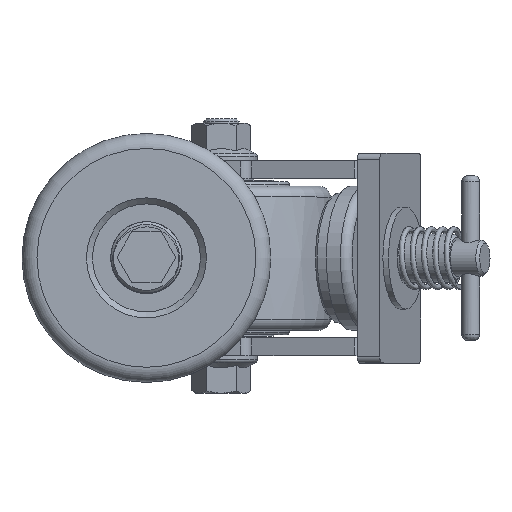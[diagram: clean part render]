
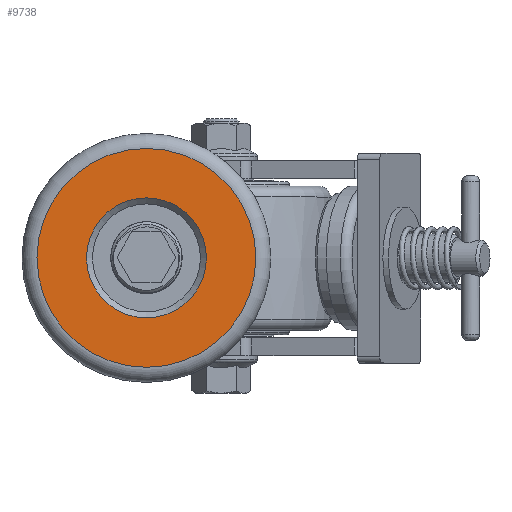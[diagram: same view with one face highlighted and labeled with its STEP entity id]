
A CAD part, top view. The second image highlights one B-rep face of the part: STEP entity #9738.
In plain terms, the highlighted planar face has unit normal (0, 0, 1).
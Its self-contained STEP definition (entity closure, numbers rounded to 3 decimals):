
#178=FACE_BOUND('',#1788,.T.);
#628=PLANE('',#10381);
#1172=FACE_OUTER_BOUND('',#1787,.T.);
#1787=EDGE_LOOP('',(#9061));
#1788=EDGE_LOOP('',(#9062));
#1986=CIRCLE('',#10379,36.5);
#1988=CIRCLE('',#10382,20.);
#4881=VERTEX_POINT('',#31352);
#4882=VERTEX_POINT('',#31356);
#6278=EDGE_CURVE('',#4881,#4881,#1986,.T.);
#6280=EDGE_CURVE('',#4882,#4882,#1988,.T.);
#9061=ORIENTED_EDGE('',*,*,#6278,.T.);
#9062=ORIENTED_EDGE('',*,*,#6280,.F.);
#9738=ADVANCED_FACE('',(#1172,#178),#628,.T.);
#10379=AXIS2_PLACEMENT_3D('',#31353,#12436,#12437);
#10381=AXIS2_PLACEMENT_3D('',#31355,#12440,#12441);
#10382=AXIS2_PLACEMENT_3D('',#31357,#12442,#12443);
#12436=DIRECTION('center_axis',(0.,0.,
1.));
#12437=DIRECTION('ref_axis',(1.,0.,0.));
#12440=DIRECTION('center_axis',(0.,0.,
1.));
#12441=DIRECTION('ref_axis',(1.,0.,0.));
#12442=DIRECTION('center_axis',(0.,0.,
1.));
#12443=DIRECTION('ref_axis',(1.,0.,0.));
#31352=CARTESIAN_POINT('',(-36.5,0.,0.));
#31353=CARTESIAN_POINT('Origin',(0.,0.,
0.));
#31355=CARTESIAN_POINT('Origin',(20.,0.,0.));
#31356=CARTESIAN_POINT('',(-20.,0.,0.));
#31357=CARTESIAN_POINT('Origin',(0.,0.,
0.));
